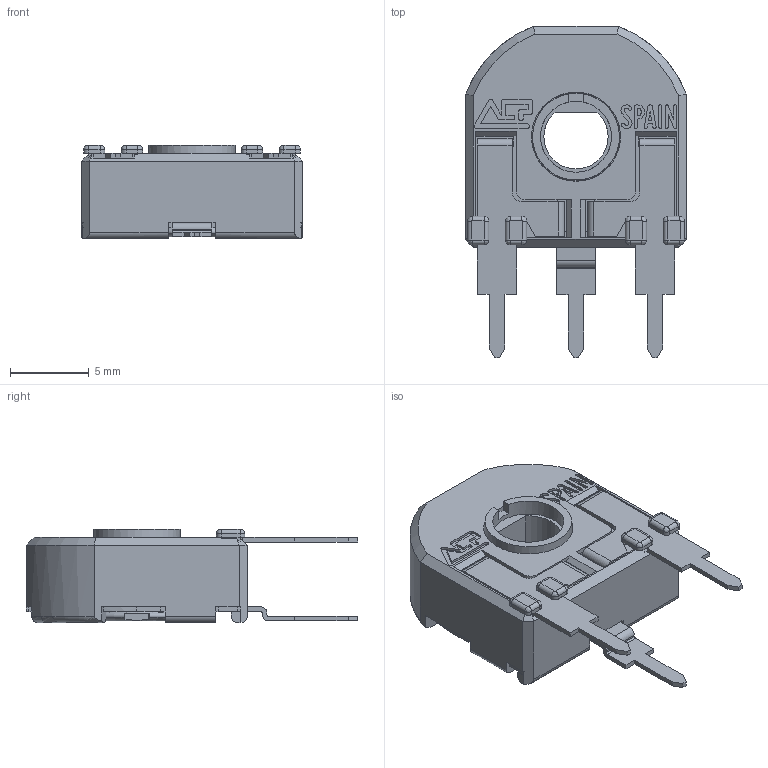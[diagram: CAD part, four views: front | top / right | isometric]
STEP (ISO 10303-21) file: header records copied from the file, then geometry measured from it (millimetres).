
FILE_DESCRIPTION(/* description */ (''),/* implementation_level */ '2;1');
FILE_NAME(/* name */ 'C:\Users\CEM\Desktop\ENVIAR\TRANSICION 3D CATALOGOS\CAR14DH5.stp',/* time_stamp */ '2025-09-22T09:50:32+02:00',/* author */ ('CEM'),/* organization */ (''),/* preprocessor_version */ 'ST-DEVELOPER v17',/* originating_system */ 'Autodesk Inventor 2018',/* authorisation */ '');
FILE_SCHEMA (('AUTOMOTIVE_DESIGN { 1 0 10303 214 3 1 1 }'));
Length unit declared in the file: millimetre
Products named in the file (1): CAR14DH5
Bounding box: 14 x 21 x 5.9 mm (x, y, z)
Volume: 540.6 mm3; surface area: 1518.3 mm2
Topology: 1 solids, 1 shells, 575 faces, 1676 edges, 1073 vertices
Faces by surface type: plane 393, cylinder 139, bspline 20, cone 14, torus 9
Full cylindrical faces by diameter (mm): 1.2 x2, 4.5 x1, 5.5 x1, 5.65 x1, 6.88 x1
Entity records: 19716 total; most frequent: CARTESIAN_POINT 3649, ORIENTED_EDGE 3352, DIRECTION 3149, EDGE_CURVE 1676, LINE 1239, VECTOR 1239, VERTEX_POINT 1073, AXIS2_PLACEMENT_3D 955
